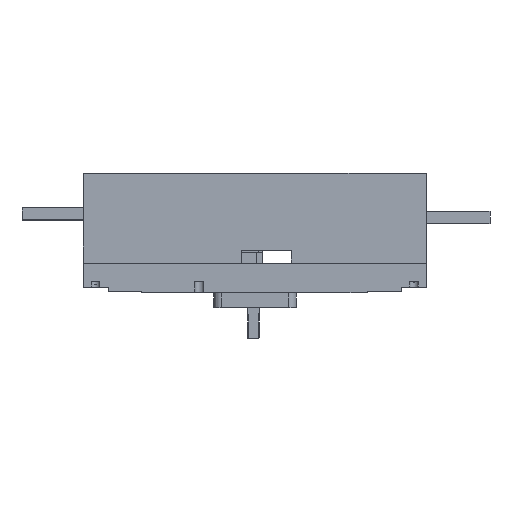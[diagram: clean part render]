
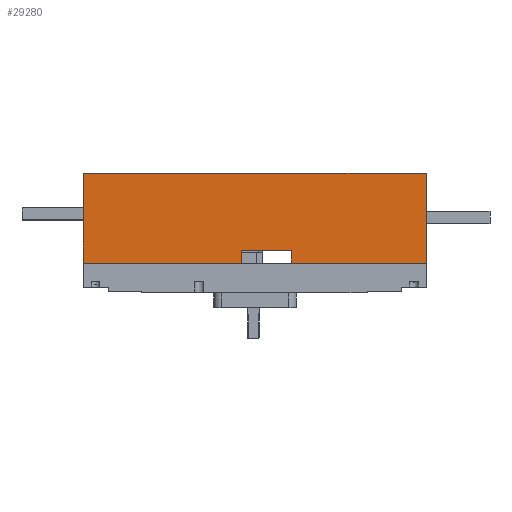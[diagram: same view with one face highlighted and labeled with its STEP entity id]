
A CAD part, front view. The second image highlights one B-rep face of the part: STEP entity #29280.
In plain terms, the highlighted planar face has unit normal (0, -1, 0).
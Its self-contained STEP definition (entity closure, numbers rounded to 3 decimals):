
#2665=DIRECTION('',(1.,0.,0.));
#2666=VECTOR('',#2665,406.);
#2667=CARTESIAN_POINT('',(0.5,1.,106.5));
#2668=LINE('',#2667,#2666);
#2669=DIRECTION('',(0.,0.,1.));
#2670=VECTOR('',#2669,106.5);
#2671=CARTESIAN_POINT('',(406.5,1.,0.));
#2672=LINE('',#2671,#2670);
#2673=DIRECTION('',(-1.,0.,0.));
#2674=VECTOR('',#2673,159.5);
#2675=CARTESIAN_POINT('',(406.5,1.,0.));
#2676=LINE('',#2675,#2674);
#2677=DIRECTION('',(-1.,0.,0.));
#2678=VECTOR('',#2677,187.);
#2679=CARTESIAN_POINT('',(187.5,1.,0.));
#2680=LINE('',#2679,#2678);
#2681=DIRECTION('',(0.,0.,1.));
#2682=VECTOR('',#2681,106.5);
#2683=CARTESIAN_POINT('',(0.5,1.,0.));
#2684=LINE('',#2683,#2682);
#2685=DIRECTION('',(0.,0.,-1.));
#2686=VECTOR('',#2685,15.);
#2687=CARTESIAN_POINT('',(247.,1.,15.));
#2688=LINE('',#2687,#2686);
#2713=DIRECTION('',(-1.,0.,0.));
#2714=VECTOR('',#2713,59.5);
#2715=CARTESIAN_POINT('',(247.,1.,15.));
#2716=LINE('',#2715,#2714);
#2725=DIRECTION('',(0.,0.,1.));
#2726=VECTOR('',#2725,15.);
#2727=CARTESIAN_POINT('',(187.5,1.,0.));
#2728=LINE('',#2727,#2726);
#25705=CARTESIAN_POINT('',(0.5,1.,106.5));
#25707=VERTEX_POINT('',#25705);
#25723=CARTESIAN_POINT('',(0.5,1.,0.));
#25724=VERTEX_POINT('',#25723);
#25809=CARTESIAN_POINT('',(406.5,1.,0.));
#25811=VERTEX_POINT('',#25809);
#25815=CARTESIAN_POINT('',(406.5,1.,106.5));
#25816=VERTEX_POINT('',#25815);
#25889=CARTESIAN_POINT('',(247.,1.,15.));
#25890=CARTESIAN_POINT('',(187.5,1.,15.));
#25891=VERTEX_POINT('',#25889);
#25892=VERTEX_POINT('',#25890);
#25893=CARTESIAN_POINT('',(187.5,1.,0.));
#25894=VERTEX_POINT('',#25893);
#25895=CARTESIAN_POINT('',(247.,1.,0.));
#25896=VERTEX_POINT('',#25895);
#29260=CARTESIAN_POINT('',(0.,1.,117.15));
#29261=DIRECTION('',(0.,-1.,0.));
#29262=DIRECTION('',(0.,0.,1.));
#29263=AXIS2_PLACEMENT_3D('',#29260,#29261,#29262);
#29264=PLANE('',#29263);
#29265=ORIENTED_EDGE('',*,*,#28010,.T.);
#29266=ORIENTED_EDGE('',*,*,#26418,.F.);
#29267=ORIENTED_EDGE('',*,*,#29149,.T.);
#29269=ORIENTED_EDGE('',*,*,#29268,.F.);
#29271=ORIENTED_EDGE('',*,*,#29270,.T.);
#29273=ORIENTED_EDGE('',*,*,#29272,.F.);
#29275=ORIENTED_EDGE('',*,*,#29274,.T.);
#29277=ORIENTED_EDGE('',*,*,#29276,.T.);
#29278=EDGE_LOOP('',(#29265,#29266,#29267,#29269,#29271,#29273,#29275,#29277));
#29279=FACE_OUTER_BOUND('',#29278,.F.);
#29280=ADVANCED_FACE('',(#29279),#29264,.T.);
#26418=EDGE_CURVE('',#25811,#25816,#2672,.T.);
#28010=EDGE_CURVE('',#25707,#25816,#2668,.T.);
#29149=EDGE_CURVE('',#25811,#25896,#2676,.T.);
#29268=EDGE_CURVE('',#25891,#25896,#2688,.T.);
#29270=EDGE_CURVE('',#25891,#25892,#2716,.T.);
#29272=EDGE_CURVE('',#25894,#25892,#2728,.T.);
#29274=EDGE_CURVE('',#25894,#25724,#2680,.T.);
#29276=EDGE_CURVE('',#25724,#25707,#2684,.T.);
